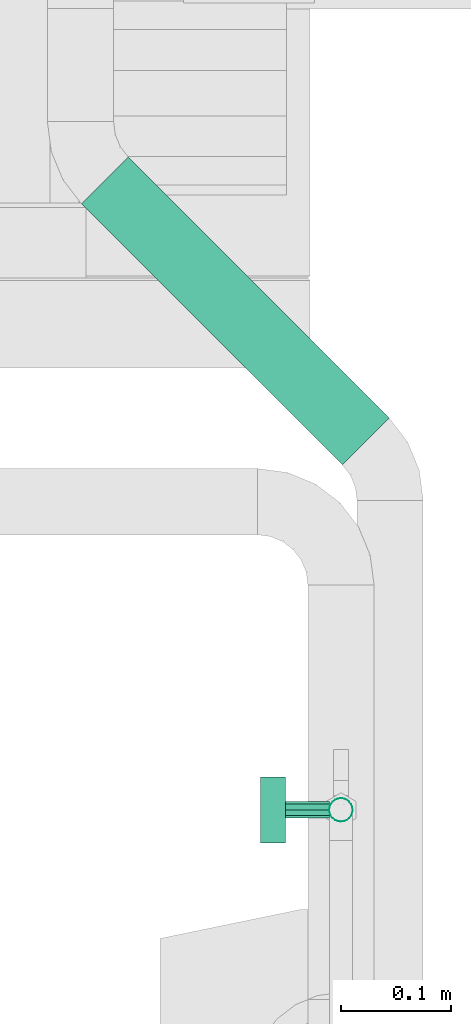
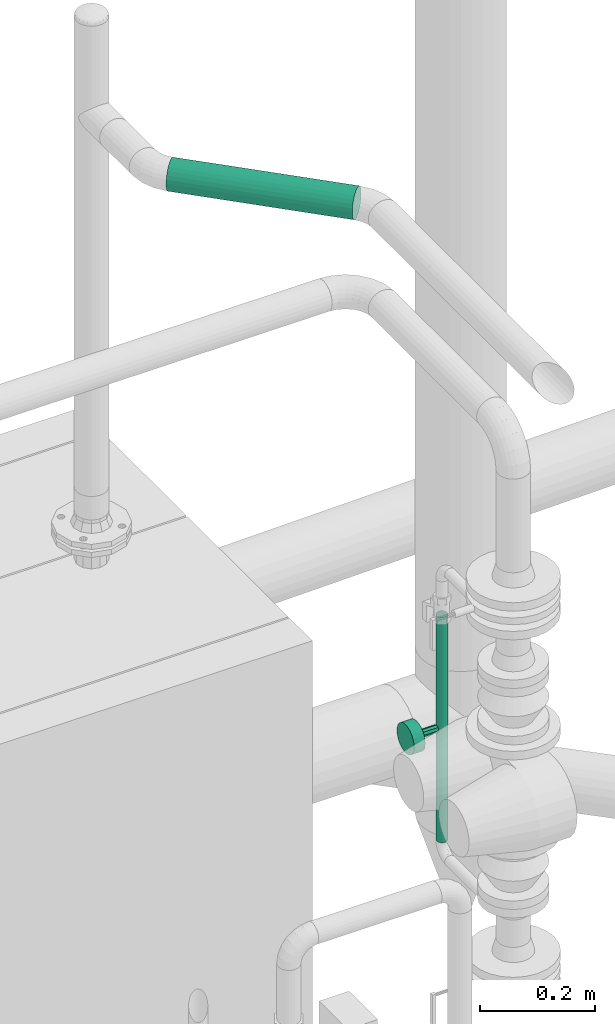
# One storey, part 294 of 374: 2 flow segments, 1 distribution control element.
"""IFC2X3 building model written with IfcOpenShell, lengths in metres."""

from ifc_helpers import new_model, si_unit, direction, origin, place, context, subcontext, project, spatial, open_shell, surface_model, source, transform, mapped, element, save


model = new_model("IFC2X3")

# Units and contexts
model_context = context("Model", 3, precision=1e-05, world=origin(), true_north=direction((-0.4480736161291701, 0.8939966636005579)))
body_context = subcontext(model_context, "Body", "Model", "MODEL_VIEW")
ifc_project = project(units=[si_unit("LENGTHUNIT", "METRE"), si_unit("AREAUNIT", "SQUARE_METRE"), si_unit("VOLUMEUNIT", "CUBIC_METRE"), si_unit("PLANEANGLEUNIT", "RADIAN"), si_unit("THERMODYNAMICTEMPERATUREUNIT", "KELVIN"), si_unit("MASSUNIT", "GRAM", prefix="KILO"), si_unit("TIMEUNIT", "SECOND")], contexts=[model_context])

# Site, building, storey
site_placement = place(None, origin())
site = spatial("IfcSite", under=ifc_project, at=site_placement, Name="Site 1", CompositionType="ELEMENT")
building_placement = place(site_placement, origin())
building = spatial("IfcBuilding", under=site, at=building_placement, Name="Undefined", CompositionType="ELEMENT")
storey_placement = place(building_placement, origin())
storey = spatial("IfcBuildingStorey", under=building, at=storey_placement, Name="Rez de chauss\x8ee", CompositionType="ELEMENT", Elevation=0.0)

# Flow segment
shared_shape_1 = source(origin(), body_context, "Body", "SurfaceModel", [
    surface_model("IfcFaceBasedSurfaceModel", [(1.776356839e-15, 0.0027802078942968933, 0.0), (0.0, 0.0, 0.0), (0.47912152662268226, 3.552713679e-15, 0.0), (0.47912152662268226, 0.002780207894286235, 0.0), (0.0, -0.002685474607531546, -0.0007195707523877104), (0.47912152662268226, -0.002685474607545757, -0.000719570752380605), (1.776356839e-15, -0.00509320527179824, -0.002109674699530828), (0.47912152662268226, -0.005093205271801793, -0.0021096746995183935), (1.776356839e-15, -0.007059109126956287, -0.004075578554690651), (0.47912152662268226, -0.007059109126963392, -0.00407557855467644), (0.0, -0.00844921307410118, -0.00648330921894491), (0.47912152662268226, -0.008449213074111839, -0.006483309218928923), (0.0, -0.009168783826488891, -0.009168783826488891), (0.47912152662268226, -0.00916878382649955, -0.00916878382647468), (0.0, -0.009168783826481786, -0.011948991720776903), (0.47912152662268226, -0.009168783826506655, -0.011948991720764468), (1.776356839e-15, -0.00844921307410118, -0.014634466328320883), (0.47912152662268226, -0.008449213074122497, -0.01463446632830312), (1.776356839e-15, -0.007059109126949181, -0.017042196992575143), (0.47912152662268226, -0.007059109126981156, -0.017042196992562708), (0.0, -0.005093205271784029, -0.019008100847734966), (0.47912152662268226, -0.0050932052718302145, -0.01900810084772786), (0.0, -0.0026854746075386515, -0.020398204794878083), (0.47912152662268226, -0.0026854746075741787, -0.02039820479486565), (1.776356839e-15, 7.105427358e-15, -0.021117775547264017), (0.47912152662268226, -3.1974423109e-14, -0.021117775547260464), (1.776356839e-15, 0.002780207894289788, -0.02111777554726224), (0.47912152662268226, 0.0027802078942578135, -0.021117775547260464), (1.776356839e-15, 0.005465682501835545, -0.020398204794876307), (0.47912152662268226, 0.00546568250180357, -0.020398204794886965), (1.776356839e-15, 0.007873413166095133, -0.01900810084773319), (0.47912152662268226, 0.007873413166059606, -0.01900810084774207), (0.0, 0.00983931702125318, -0.017042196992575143), (0.47912152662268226, 0.009839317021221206, -0.01704219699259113), (1.776356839e-15, 0.011229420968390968, -0.01463446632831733), (0.47912152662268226, 0.0112294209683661, -0.014634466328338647), (1.776356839e-15, 0.011948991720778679, -0.011948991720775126), (0.47912152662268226, 0.011948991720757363, -0.01194899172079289), (1.776356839e-15, 0.011948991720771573, -0.009168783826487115), (0.47912152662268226, 0.011948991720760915, -0.009168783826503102), (0.0, 0.011229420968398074, -0.006483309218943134), (0.47912152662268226, 0.01122942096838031, -0.00648330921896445), (1.776356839e-15, 0.009839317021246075, -0.0040755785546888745), (0.47912152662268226, 0.009839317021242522, -0.004075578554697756), (1.776356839e-15, 0.007873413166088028, -0.0021096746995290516), (0.47912152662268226, 0.007873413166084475, -0.0021096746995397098), (1.776356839e-15, 0.005465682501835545, -0.000719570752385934), (0.47912152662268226, 0.005465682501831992, -0.0007195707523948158)], [open_shell([[[0, 1, 2, 3]], [[1, 4, 5, 2]], [[4, 6, 7, 5]], [[6, 8, 9, 7]], [[8, 10, 11, 9]], [[10, 12, 13, 11]], [[12, 14, 15, 13]], [[14, 16, 17, 15]], [[16, 18, 19, 17]], [[18, 20, 21, 19]], [[20, 22, 23, 21]], [[22, 24, 25, 23]], [[24, 26, 27, 25]], [[26, 28, 29, 27]], [[28, 30, 31, 29]], [[30, 32, 33, 31]], [[32, 34, 35, 33]], [[34, 36, 37, 35]], [[36, 38, 39, 37]], [[38, 40, 41, 39]], [[40, 42, 43, 41]], [[42, 44, 45, 43]], [[44, 46, 47, 45]], [[46, 0, 3, 47]]])]),
])
flow_segment_1_placement = place(storey_placement, origin())
element("IfcFlowSegment", 1, at=flow_segment_1_placement, inside=storey, Name="Tube acier d'après DIN 2448", ObjectType="Tube acier d'après DIN 2448", context=body_context, shape_type="MappedRepresentation", body=[
    mapped(shared_shape_1, transform((55.009616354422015, 12.243691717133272, 1.525000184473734), x_axis=(0.0, 0.0, -1.0), y_axis=(0.13052619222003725, 0.9914448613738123, 0.0), z_axis=(0.9914448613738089, -0.13052619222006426, 0.0))),
])

# Distribution control element
shared_shape_2 = source(origin(), body_context, "Body", "SurfaceModel", [
    surface_model("IfcFaceBasedSurfaceModel", [(0.0, 0.007831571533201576, 0.0), (0.0, 0.0, 0.0), (0.022500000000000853, -8.8817842e-16, 0.0), (0.022500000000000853, 0.007831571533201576, 0.0), (0.0, -0.007564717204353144, -0.0020269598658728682), (0.022500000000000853, -0.007564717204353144, -0.0020269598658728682), (0.0, -0.01434705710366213, -0.0059427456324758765), (0.022500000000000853, -0.01434705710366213, -0.0059427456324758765), (0.0, -0.019884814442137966, -0.011480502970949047), (0.022500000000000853, -0.019884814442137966, -0.011480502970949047), (0.0, -0.023800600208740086, -0.018262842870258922), (0.022500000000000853, -0.023800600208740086, -0.018262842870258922), (0.0, -0.025827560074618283, -0.025827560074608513), (0.022500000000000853, -0.025827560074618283, -0.025827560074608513), (0.0, -0.025827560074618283, -0.03365913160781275), (0.022500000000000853, -0.025827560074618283, -0.03365913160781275), (0.0, -0.023800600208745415, -0.041223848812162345), (0.022500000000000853, -0.023800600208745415, -0.041223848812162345), (0.0, -0.019884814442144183, -0.04800618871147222), (0.022500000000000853, -0.019884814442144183, -0.04800618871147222), (0.0, -0.014347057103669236, -0.05354394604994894), (0.022500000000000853, -0.014347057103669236, -0.05354394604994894), (0.0, -0.0075647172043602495, -0.05745973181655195), (0.022500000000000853, -0.0075647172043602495, -0.05745973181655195), (0.0, -9.769962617e-15, -0.05948669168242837), (0.022500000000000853, -9.769962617e-15, -0.05948669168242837), (0.0, 0.007831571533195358, -0.059486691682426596), (0.022500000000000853, 0.007831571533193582, -0.05948669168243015), (0.0, 0.01539628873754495, -0.057459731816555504), (0.022500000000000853, 0.01539628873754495, -0.057459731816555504), (0.0, 0.022178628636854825, -0.05354394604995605), (0.022500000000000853, 0.022178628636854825, -0.05354394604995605), (0.0, 0.027716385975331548, -0.048006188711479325), (0.022500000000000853, 0.027716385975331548, -0.048006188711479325), (0.0, 0.03163217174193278, -0.04122384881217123), (0.022500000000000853, 0.03163217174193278, -0.04122384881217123), (0.0, 0.03365913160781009, -0.03365913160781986), (0.022500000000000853, 0.03365913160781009, -0.03365913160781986), (0.0, 0.03365913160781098, -0.025827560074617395), (0.022500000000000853, 0.03365913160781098, -0.025827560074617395), (0.0, 0.03163217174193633, -0.018262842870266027), (0.022500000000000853, 0.03163217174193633, -0.018262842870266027), (0.0, 0.02771638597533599, -0.011480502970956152), (0.022500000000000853, 0.02771638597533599, -0.011480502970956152), (0.0, 0.022178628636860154, -0.005942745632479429), (0.022500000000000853, 0.022178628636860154, -0.005942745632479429), (0.0, 0.015396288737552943, -0.0020269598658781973), (0.022500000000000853, 0.015396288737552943, -0.0020269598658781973), (0.0, 0.003915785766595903, -0.029743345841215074), (0.022500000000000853, 0.003915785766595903, -0.029743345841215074), (-0.03999999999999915, -0.0020343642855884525, -0.03430905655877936), (-0.03999999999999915, 0.0029368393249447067, -0.037179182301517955), (0.0, 0.0029368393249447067, -0.037179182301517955), (0.0, -0.0020343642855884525, -0.03430905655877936), (-0.03999999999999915, 0.00848149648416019, -0.03569349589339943), (0.0, 0.00848149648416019, -0.03569349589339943), (-0.03999999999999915, 0.011351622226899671, -0.030722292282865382), (0.0, 0.011351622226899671, -0.030722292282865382), (-0.03999999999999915, 0.009865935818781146, -0.025177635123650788), (0.0, 0.009865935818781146, -0.025177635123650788), (-0.03999999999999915, 0.004894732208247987, -0.022307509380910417), (0.0, 0.004894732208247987, -0.022307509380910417), (-0.03999999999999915, -0.0006499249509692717, -0.02379319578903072), (0.0, -0.0006499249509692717, -0.02379319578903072), (-0.03999999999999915, -0.0035200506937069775, -0.02876439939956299), (0.0, -0.0035200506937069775, -0.02876439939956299)], [open_shell([[[0, 1, 2, 3]], [[1, 4, 5, 2]], [[4, 6, 7, 5]], [[6, 8, 9, 7]], [[8, 10, 11, 9]], [[10, 12, 13, 11]], [[12, 14, 15, 13]], [[14, 16, 17, 15]], [[16, 18, 19, 17]], [[18, 20, 21, 19]], [[20, 22, 23, 21]], [[22, 24, 25, 23]], [[24, 26, 27, 25]], [[26, 28, 29, 27]], [[28, 30, 31, 29]], [[30, 32, 33, 31]], [[32, 34, 35, 33]], [[34, 36, 37, 35]], [[36, 38, 39, 37]], [[38, 40, 41, 39]], [[40, 42, 43, 41]], [[42, 44, 45, 43]], [[44, 46, 47, 45]], [[46, 0, 3, 47]], [[48, 1, 0]], [[48, 4, 1]], [[48, 6, 4]], [[48, 8, 6]], [[48, 10, 8]], [[48, 12, 10]], [[48, 14, 12]], [[48, 16, 14]], [[48, 18, 16]], [[48, 20, 18]], [[48, 22, 20]], [[48, 24, 22]], [[48, 26, 24]], [[48, 28, 26]], [[48, 30, 28]], [[48, 32, 30]], [[48, 34, 32]], [[48, 36, 34]], [[48, 38, 36]], [[48, 40, 38]], [[48, 42, 40]], [[48, 44, 42]], [[48, 46, 44]], [[48, 0, 46]], [[49, 47, 3]], [[49, 45, 47]], [[49, 43, 45]], [[49, 41, 43]], [[49, 39, 41]], [[49, 37, 39]], [[49, 35, 37]], [[49, 33, 35]], [[49, 31, 33]], [[49, 29, 31]], [[49, 27, 29]], [[49, 25, 27]], [[49, 23, 25]], [[49, 21, 23]], [[49, 19, 21]], [[49, 17, 19]], [[49, 15, 17]], [[49, 13, 15]], [[49, 11, 13]], [[49, 9, 11]], [[49, 7, 9]], [[49, 5, 7]], [[49, 2, 5]], [[49, 3, 2]], [[50, 51, 52, 53]], [[51, 54, 55, 52]], [[54, 56, 57, 55]], [[56, 58, 59, 57]], [[58, 60, 61, 59]], [[60, 62, 63, 61]], [[62, 64, 65, 63]], [[64, 50, 53, 65]]])]),
])
distribution_control_element_placement = place(storey_placement, origin())
element("IfcDistributionControlElement", 2, at=distribution_control_element_placement, inside=storey, Name="Thermomètre droit ind. horloge", ObjectType="Thermomètre droit ind. horloge", context=body_context, shape_type="MappedRepresentation", body=[
    mapped(shared_shape_2, transform((54.94867924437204, 12.220467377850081, 1.2704394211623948), x_axis=(-1.0, 0.0, 0.0), y_axis=(0.0, 0.6087614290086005, -0.7933533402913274), z_axis=(0.0, -0.7933533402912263, -0.6087614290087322))),
])

# Flow segment
shared_shape_3 = source(origin(), body_context, "Body", "SurfaceModel", [
    surface_model("IfcFaceBasedSurfaceModel", [(0.335832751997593, -1.4210854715e-14, -8.8817842e-16), (0.3358327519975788, 0.00787072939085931, -8.8817842e-16), (0.0, 0.007870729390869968, 7.105427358e-15), (0.0, 0.0, 0.0), (0.3358327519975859, 0.015473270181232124, -0.0020370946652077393), (0.0, 0.015473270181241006, -0.0020370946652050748), (0.335832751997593, 0.0222895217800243, -0.005972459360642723), (0.0, 0.022289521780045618, -0.005972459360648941), (0.3358327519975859, 0.027854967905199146, -0.011537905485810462), (0.0, 0.02785496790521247, -0.01153790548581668), (0.33583275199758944, 0.03179033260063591, -0.018354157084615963), (0.0, 0.0317903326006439, -0.01835415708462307), (0.3358327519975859, 0.03382742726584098, -0.025956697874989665), (0.0, 0.0338274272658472, -0.025956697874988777), (0.33583275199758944, 0.03382742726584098, -0.03382742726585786), (0.0, 0.033827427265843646, -0.0338274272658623), (0.3358327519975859, 0.0317903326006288, -0.04142996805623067), (0.0, 0.031790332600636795, -0.04142996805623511), (0.335832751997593, 0.02785496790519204, -0.04824621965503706), (0.0, 0.027854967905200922, -0.048246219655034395), (0.3358327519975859, 0.022289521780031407, -0.05381166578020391), (0.0, 0.022289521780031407, -0.05381166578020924), (0.3358327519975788, 0.015473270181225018, -0.05774703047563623), (0.0, 0.015473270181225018, -0.057747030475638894), (0.335832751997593, 0.007870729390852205, -0.05978412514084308), (0.0, 0.007870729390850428, -0.05978412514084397), (0.3358327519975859, -2.1316282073e-14, -0.059784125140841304), (0.0, -1.7763568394e-14, -0.05978412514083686), (0.33583275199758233, -0.007602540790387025, -0.05774703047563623), (0.0, -0.007602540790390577, -0.05774703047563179), (0.3358327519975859, -0.014418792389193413, -0.053811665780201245), (0.0, -0.01441879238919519, -0.05381166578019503), (0.3358327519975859, -0.019984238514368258, -0.048246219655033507), (0.0, -0.019984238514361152, -0.04824621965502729), (0.3358327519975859, -0.023919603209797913, -0.041429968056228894), (0.0, -0.02391960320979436, -0.041429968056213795), (0.3358327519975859, -0.025956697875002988, -0.03382742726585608), (0.0, -0.025956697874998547, -0.03382742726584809), (0.3358327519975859, -0.025956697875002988, -0.025956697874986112), (0.0, -0.025956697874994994, -0.025956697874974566), (0.3358327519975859, -0.023919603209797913, -0.0183541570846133), (0.0, -0.023919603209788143, -0.018354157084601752), (0.3358327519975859, -0.019984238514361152, -0.011537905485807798), (0.0, -0.019984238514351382, -0.011537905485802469), (0.33583275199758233, -0.014418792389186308, -0.005972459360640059), (0.0, -0.01441879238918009, -0.00597245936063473), (0.3358327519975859, -0.007602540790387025, -0.002037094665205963), (0.0, -0.00760254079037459, -0.0020370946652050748)], [open_shell([[[0, 1, 2, 3]], [[1, 4, 5, 2]], [[4, 6, 7, 5]], [[6, 8, 9, 7]], [[8, 10, 11, 9]], [[10, 12, 13, 11]], [[12, 14, 15, 13]], [[14, 16, 17, 15]], [[16, 18, 19, 17]], [[18, 20, 21, 19]], [[20, 22, 23, 21]], [[22, 24, 25, 23]], [[24, 26, 27, 25]], [[26, 28, 29, 27]], [[28, 30, 31, 29]], [[30, 32, 33, 31]], [[32, 34, 35, 33]], [[34, 36, 37, 35]], [[36, 38, 39, 37]], [[38, 40, 41, 39]], [[40, 42, 43, 41]], [[42, 44, 45, 43]], [[44, 46, 47, 45]], [[46, 0, 3, 47]]])]),
])
flow_segment_2_placement = place(storey_placement, origin())
element("IfcFlowSegment", 3, at=flow_segment_2_placement, inside=storey, Name="Tube acier d'après DIN 2448", ObjectType="Tube acier d'après DIN 2448", context=body_context, shape_type="MappedRepresentation", body=[
    mapped(shared_shape_3, transform((55.021829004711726, 12.582115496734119, 2.1578499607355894), x_axis=(-0.7071067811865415, 0.7071067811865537, 0.0), y_axis=(0.7010573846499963, 0.701057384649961, 0.13052619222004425), z_axis=(0.0922959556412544, 0.09229595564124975, -0.9914448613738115))),
])

save(model, "model.ifc")
